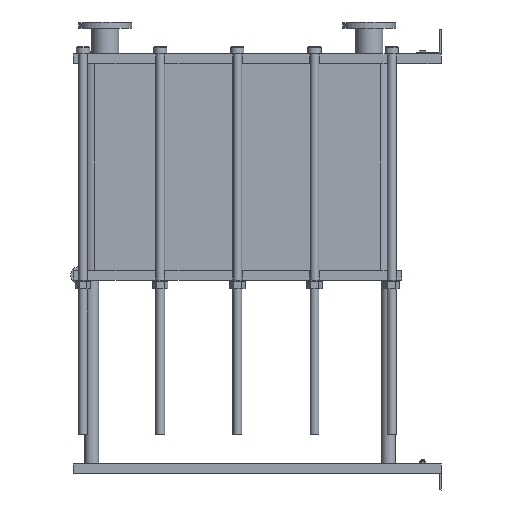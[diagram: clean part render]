
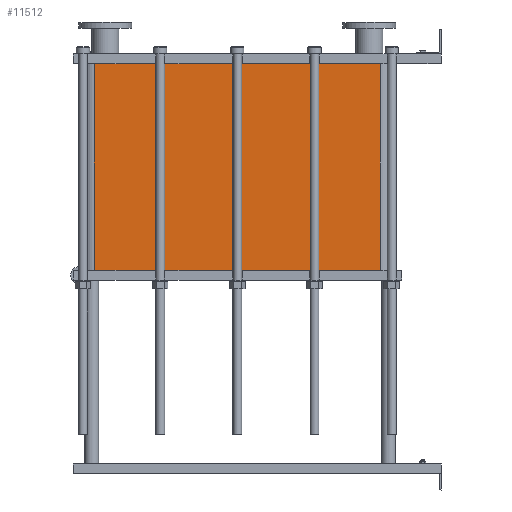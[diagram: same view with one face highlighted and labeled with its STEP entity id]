
A CAD part, left-side view. The second image highlights one B-rep face of the part: STEP entity #11512.
In plain terms, the highlighted planar face has unit normal (-1, 0, 0).
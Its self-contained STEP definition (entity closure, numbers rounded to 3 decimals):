
#1129=LINE('',#23232,#2102);
#1130=LINE('',#23236,#2103);
#1131=LINE('',#23238,#2104);
#1132=LINE('',#23239,#2105);
#2102=VECTOR('',#15887,10.);
#2103=VECTOR('',#15892,10.);
#2104=VECTOR('',#15893,10.);
#2105=VECTOR('',#15894,10.);
#3267=FACE_OUTER_BOUND('',#4093,.T.);
#4093=EDGE_LOOP('',(#10103,#10104,#10105,#10106));
#5642=VERTEX_POINT('',#23229);
#5643=VERTEX_POINT('',#23231);
#5644=VERTEX_POINT('',#23235);
#5645=VERTEX_POINT('',#23237);
#7159=EDGE_CURVE('',#5643,#5642,#1129,.T.);
#7161=EDGE_CURVE('',#5642,#5644,#1130,.T.);
#7162=EDGE_CURVE('',#5645,#5644,#1131,.T.);
#7163=EDGE_CURVE('',#5645,#5643,#1132,.T.);
#10103=ORIENTED_EDGE('',*,*,#7161,.T.);
#10104=ORIENTED_EDGE('',*,*,#7162,.F.);
#10105=ORIENTED_EDGE('',*,*,#7163,.T.);
#10106=ORIENTED_EDGE('',*,*,#7159,.T.);
#10857=PLANE('',#12751);
#11512=ADVANCED_FACE('',(#3267),#10857,.T.);
#12751=AXIS2_PLACEMENT_3D('',#23234,#15890,#15891);
#15887=DIRECTION('',(0.,0.,-1.));
#15890=DIRECTION('center_axis',(-1.,0.,0.));
#15891=DIRECTION('ref_axis',(0.,1.,0.));
#15892=DIRECTION('',(0.,-1.,0.));
#15893=DIRECTION('',(0.,0.,-1.));
#15894=DIRECTION('',(0.,1.,0.));
#23229=CARTESIAN_POINT('',(-200.,1414.,-841.8));
#23231=CARTESIAN_POINT('',(-200.,1414.,0.));
#23232=CARTESIAN_POINT('',(-200.,1414.,0.));
#23234=CARTESIAN_POINT('Origin',(-200.,248.,0.));
#23235=CARTESIAN_POINT('',(-200.,248.,-841.8));
#23236=CARTESIAN_POINT('',(-200.,539.5,-841.8));
#23237=CARTESIAN_POINT('',(-200.,248.,0.));
#23238=CARTESIAN_POINT('',(-200.,248.,0.));
#23239=CARTESIAN_POINT('',(-200.,248.,0.));
